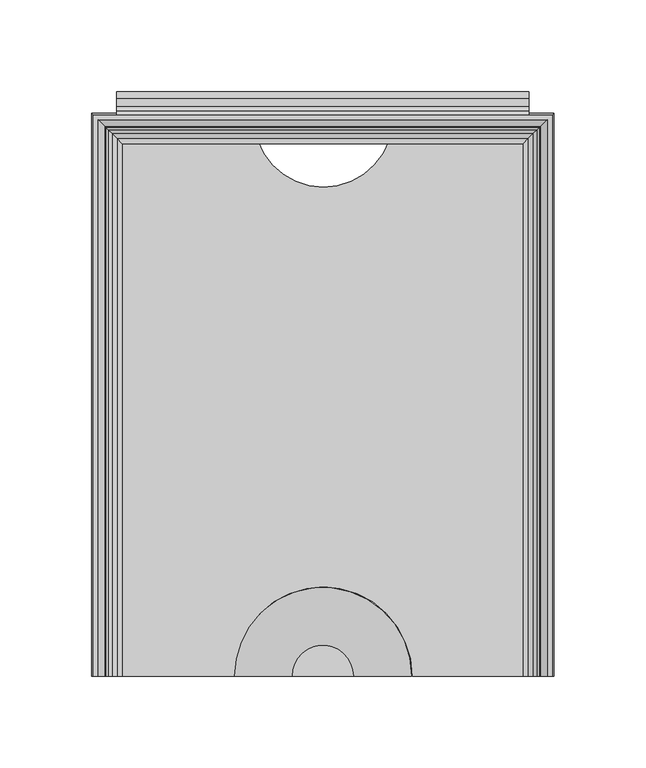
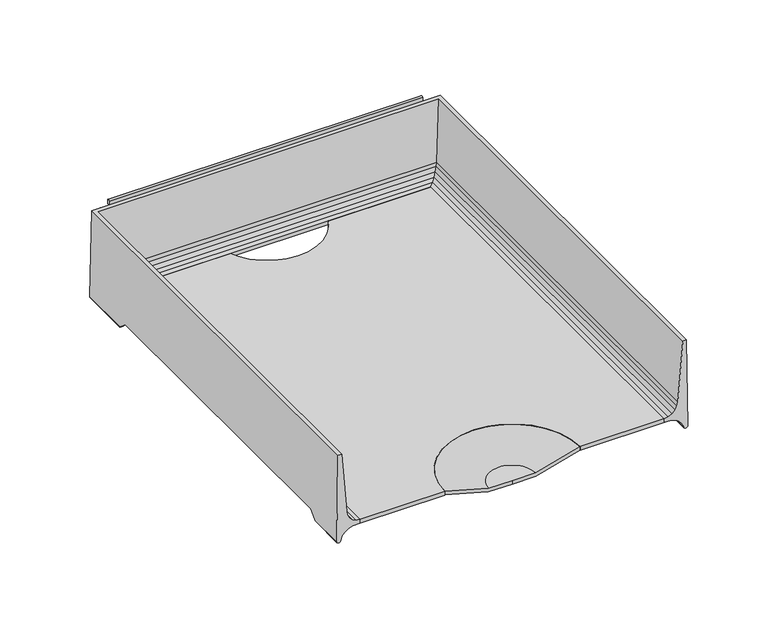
"""IFC4 building model written with IfcOpenShell, lengths in millimetres: furniture geometry."""

from ifc_helpers import new_model, si_unit, point, frame, frame_2d, origin, place, context, project, spatial, polyline, circle_curve, ellipse_curve, trimmed, segment, composite_curve, outline, extrude, source, transform, mapped, element, save
from ifc_brep_helpers import plane_surface, cylinder_surface, revolved_surface, advanced_brep


def furniture_8229559b(model_context):
    return source(origin(), model_context, "Body", "SolidModel", [
        advanced_brep(
        [(126.0820502, -154.0206082, 1028.3882489), (125.1325529, -154.0206082, 1093.7876914), (122.4547921, -154.0206082, 1093.7876914), (118.8379747, -154.0206082, 1049.0006003), (118.4123648, -154.0206082, 1046.2671052), (117.0774354, -154.0206082, 1043.5660664), (114.9656457, -154.0206082, 1041.4171015), (112.28832, -154.0206082, 1040.0352261), (109.3133381, -154.0206082, 1039.5587052), (109.3133381, -154.0206082, 1036.7365971), (114.5666739, -154.0206082, 1036.5435987), (117.605351, -154.0206082, 1035.4872218), (120.2416, -154.0206082, 1033.6433822), (122.2762142, -154.0206082, 1031.1514079), (123.1625518, -154.0206082, 1028.1081655), (126.0820502, -127.6379698, 1028.3882489), (126.0026181, -121.5231874, 1033.859372), (126.0026181, 109.0611937, 1033.859372), (126.0820502, 115.1759816, 1028.3882489), (126.0820502, 153.036442, 1028.3882489), (125.1325529, 152.0869447, 1093.7876914), (-125.1325529, 152.0869447, 1093.7876914), (-125.1325529, -154.0206082, 1093.7876914), (-122.4547921, -154.0206082, 1093.7876914), (-122.4547921, 149.4091839, 1093.7876914), (122.4547921, 149.4091839, 1093.7876914), (118.8379747, 145.7923665, 1049.0006003), (118.4123648, 145.3667566, 1046.2671052), (117.0774354, 144.0318272, 1043.5660664), (114.9656457, 141.9200375, 1041.4171015), (112.28832, 139.2427118, 1040.0352261), (109.3133381, 136.2677299, 1039.5587052), (109.3133381, 136.2677299, 1036.7365971), (114.5666739, 141.5210656, 1036.5435987), (117.605351, 144.5597428, 1035.4872218), (120.2416, 147.1959918, 1033.6433822), (120.2416, 109.3025941, 1033.6433822), (119.9327864, 109.0611937, 1033.859372), (119.9327864, -121.5231874, 1033.859372), (120.2416, -121.7645876, 1033.6433822), (122.2762142, -124.5497344, 1031.1514079), (122.2762142, 149.230606, 1031.1514079), (122.2762142, 112.0877435, 1031.1514079), (123.1625518, -127.9510041, 1028.1081655), (123.1625518, 150.1169436, 1028.1081655), (123.1625518, 115.4890162, 1028.1081655), (-126.0820502, 153.036442, 1028.3882489), (-118.8379747, 145.7923665, 1049.0006003), (-118.4123648, 145.3667566, 1046.2671052), (-117.0774354, 144.0318272, 1043.5660664), (-114.9656457, 141.9200375, 1041.4171015), (-112.28832, 139.2427118, 1040.0352261), (-109.3133381, 136.2677299, 1039.5587052), (-109.3133381, 136.2677299, 1036.7365971), (-114.5666739, 141.5210656, 1036.5435987), (-117.605351, 144.5597428, 1035.4872218), (-120.2416, 147.1959918, 1033.6433822), (-122.2762142, 149.230606, 1031.1514079), (-123.1625518, 150.1169436, 1028.1081655), (-126.0820502, -154.0206082, 1028.3882489), (-123.1625518, -154.0206082, 1028.1081655), (-122.2762142, -154.0206082, 1031.1514079), (-120.2416, -154.0206082, 1033.6433822), (-117.605351, -154.0206082, 1035.4872218), (-114.5666739, -154.0206082, 1036.5435987), (-109.3133381, -154.0206082, 1036.7365971), (-109.3133381, -154.0206082, 1039.5587052), (-112.28832, -154.0206082, 1040.0352261), (-114.9656457, -154.0206082, 1041.4171015), (-117.0774354, -154.0206082, 1043.5660664), (-118.4123648, -154.0206082, 1046.2671052), (-118.8379747, -154.0206082, 1049.0006003), (-126.0820502, 115.1759816, 1028.3882489), (-126.0026181, 109.0611937, 1033.859372), (-126.0026181, -121.5231874, 1033.859372), (-126.0820502, -127.6379698, 1028.3882489), (-120.2416, -121.7645876, 1033.6433822), (-119.9327864, -121.5231874, 1033.859372), (-119.9327864, 109.0611937, 1033.859372), (-120.2416, 109.3025941, 1033.6433822), (-122.2762142, 112.0877435, 1031.1514079), (-122.2762142, -124.5497344, 1031.1514079), (-123.1625518, 115.4890162, 1028.1081655), (-123.1625518, -127.9510041, 1028.1081655)],
        [
            (0, 1),
            (1, 2),
            (2, 3),
            (3, 4),
            (4, 5),
            (5, 6),
            (6, 7),
            (7, 8),
            (8, 9),
            (9, 10),
            (10, 11),
            (11, 12),
            (12, 13),
            (13, 14),
            (14, 0, circle_curve(frame((124.5859452, -154.0206082, 1028.6271685), z_axis=(0.0, -1.0, 0.0), x_axis=(-1.0, 0.0, 0.0)), 1.515062)),
            (0, 15),
            (15, 16),
            (16, 17),
            (17, 18),
            (18, 19),
            (19, 20),
            (20, 1),
            (20, 21),
            (21, 22),
            (22, 23),
            (23, 24),
            (24, 25),
            (25, 2),
            (25, 26),
            (26, 3),
            (26, 27),
            (27, 4),
            (27, 28),
            (28, 5),
            (28, 29),
            (29, 6),
            (29, 30),
            (30, 7),
            (30, 31),
            (31, 8),
            (31, 32),
            (32, 9),
            (32, 33),
            (33, 10),
            (33, 34),
            (34, 11),
            (34, 35),
            (35, 36),
            (36, 37),
            (37, 38),
            (38, 39),
            (39, 12),
            (39, 40),
            (40, 13),
            (35, 41),
            (41, 42),
            (42, 36),
            (40, 43),
            (43, 14),
            (41, 44),
            (44, 45),
            (45, 42),
            (43, 15, ellipse_curve(frame((124.5859452, -127.3709422, 1028.6271685), z_axis=(0.0, -0.6667949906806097, 0.7452411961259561), x_axis=(0.0, -0.7452411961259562, -0.6667949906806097)), 2.2721556, 1.515062)),
            (44, 19, ellipse_curve(frame((124.5859452, 151.540337, 1028.6271685), z_axis=(0.7071067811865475, -0.7071067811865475, 0.0), x_axis=(-0.7071067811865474, -0.7071067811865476, 0.0)), 2.1426212, 1.515062)),
            (18, 45, ellipse_curve(frame((124.5859452, 114.9089538, 1028.6271685), z_axis=(0.0, 0.6667946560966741, 0.7452414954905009), x_axis=(0.0, -0.7452414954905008, 0.6667946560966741)), 2.2721567, 1.515062)),
            (19, 46),
            (46, 21),
            (24, 47),
            (47, 26),
            (47, 48),
            (48, 27),
            (48, 49),
            (49, 28),
            (49, 50),
            (50, 29),
            (50, 51),
            (51, 30),
            (51, 52),
            (52, 31),
            (52, 53),
            (53, 32),
            (53, 54),
            (54, 33),
            (54, 55),
            (55, 34),
            (55, 56),
            (56, 35),
            (56, 57),
            (57, 41),
            (57, 58),
            (58, 44),
            (58, 46, ellipse_curve(frame((-124.5859452, 151.540337, 1028.6271685), z_axis=(0.7071067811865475, 0.7071067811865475, 0.0), x_axis=(0.7071067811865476, -0.7071067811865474, 0.0)), 2.1426212, 1.515062)),
            (22, 59),
            (59, 60, circle_curve(frame((-124.5859452, -154.0206082, 1028.6271685), z_axis=(0.0, -1.0, 0.0), x_axis=(1.0, 0.0, 0.0)), 1.515062)),
            (60, 61),
            (61, 62),
            (62, 63),
            (63, 64),
            (64, 65),
            (65, 66),
            (66, 67),
            (67, 68),
            (68, 69),
            (69, 70),
            (70, 71),
            (71, 23),
            (46, 72),
            (72, 73),
            (73, 74),
            (74, 75),
            (75, 59),
            (71, 47),
            (70, 48),
            (69, 49),
            (68, 50),
            (67, 51),
            (66, 52),
            (65, 53),
            (64, 54),
            (63, 55),
            (62, 76),
            (76, 77),
            (77, 78),
            (78, 79),
            (79, 56),
            (79, 80),
            (80, 57),
            (61, 81),
            (81, 76),
            (80, 82),
            (82, 58),
            (60, 83),
            (83, 81),
            (82, 72, ellipse_curve(frame((-124.5859452, 114.9089538, 1028.6271685), z_axis=(0.0, 0.6667946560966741, 0.7452414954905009), x_axis=(0.0, 0.7452414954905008, -0.6667946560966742)), 2.2721567, 1.515062)),
            (75, 83, ellipse_curve(frame((-124.5859452, -127.3709422, 1028.6271685), z_axis=(0.0, -0.6667949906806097, 0.7452411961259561), x_axis=(0.0, 0.745241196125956, 0.6667949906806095)), 2.2721556, 1.515062)),
            (38, 16),
            (74, 77),
            (37, 17),
            (73, 78),
        ],
        [
            plane_surface(frame((127.0, -154.0206082, 1027.1125), z_axis=(0.0, -1.0, 0.0), x_axis=(0.0, 0.0, 1.0))),
            plane_surface(frame((126.0820502, -154.0206082, 1028.3882489), z_axis=(0.9998946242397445, 0.0, 0.014516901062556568), x_axis=(0.0, 1.0, 0.0))),
            plane_surface(frame((125.1325529, -154.0206082, 1093.7876914), z_axis=(0.0, 0.0, 1.0), x_axis=(0.0, 1.0, 0.0))),
            plane_surface(frame((122.4547921, -154.0206082, 1093.7876914), z_axis=(-0.9967551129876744, 0.0, 0.08049375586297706), x_axis=(0.0, 1.0, 0.0))),
            plane_surface(frame((118.8379747, -154.0206082, 1049.0006003), z_axis=(-0.9880945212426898, 0.0, 0.15384803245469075), x_axis=(0.0, 1.0, 0.0))),
            plane_surface(frame((118.4123648, -154.0206082, 1046.2671052), z_axis=(-0.8964873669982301, 0.0, 0.44306929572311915), x_axis=(0.0, 1.0, 0.0))),
            plane_surface(frame((117.0774354, -154.0206082, 1043.5660664), z_axis=(-0.7132491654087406, 0.0, 0.7009105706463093), x_axis=(0.0, 1.0, 0.0))),
            plane_surface(frame((114.9656457, -154.0206082, 1041.4171015), z_axis=(-0.45865074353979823, 0.0, 0.8886166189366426), x_axis=(0.0, 1.0, 0.0))),
            plane_surface(frame((112.28832, -154.0206082, 1040.0352261), z_axis=(-0.15816001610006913, 0.0, 0.987413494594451), x_axis=(0.0, 1.0, 0.0))),
            plane_surface(frame((109.3133381, -154.0206082, 1039.5587052), z_axis=(-1.0, 0.0, 0.0), x_axis=(0.0, 1.0, 0.0))),
            plane_surface(frame((109.3133381, -154.0206082, 1036.7365971), z_axis=(-0.036713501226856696, 0.0, -0.9993258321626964), x_axis=(0.0, 1.0, 0.0))),
            plane_surface(frame((114.5666739, -154.0206082, 1036.5435987), z_axis=(-0.3283669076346, 0.0, -0.9445502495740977), x_axis=(0.0, 1.0, 0.0))),
            plane_surface(frame((117.605351, -154.0206082, 1035.4872218), z_axis=(-0.5731421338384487, 0.0, -0.819455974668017), x_axis=(0.0, 1.0, 0.0))),
            plane_surface(frame((120.2416, -154.0206082, 1033.6433822), z_axis=(-0.77460799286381, 0.0, -0.6324416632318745), x_axis=(0.0, 1.0, 0.0))),
            plane_surface(frame((122.2762142, -154.0206082, 1031.1514079), z_axis=(-0.9601080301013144, 0.0, -0.2796293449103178), x_axis=(0.0, 1.0, 0.0))),
            cylinder_surface(frame((124.5859452, -154.0206082, 1028.6271685), z_axis=(0.0, -1.0, 0.0), x_axis=(-1.0, 0.0, 0.0)), 1.515062),
            plane_surface(frame((126.0820502, 153.036442, 1028.3882489), z_axis=(0.0, 0.9998946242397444, 0.014516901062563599), x_axis=(-1.0, 0.0, 0.0))),
            plane_surface(frame((122.4547921, 149.4091839, 1093.7876914), z_axis=(0.0, -0.9967551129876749, 0.08049375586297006), x_axis=(-1.0, 0.0, 0.0))),
            plane_surface(frame((118.8379747, 145.7923665, 1049.0006003), z_axis=(0.0, -0.9880945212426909, 0.15384803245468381), x_axis=(-1.0, 0.0, 0.0))),
            plane_surface(frame((118.4123648, 145.3667566, 1046.2671052), z_axis=(0.0, -0.8964873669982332, 0.4430692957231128), x_axis=(-1.0, 0.0, 0.0))),
            plane_surface(frame((117.0774354, 144.0318272, 1043.5660664), z_axis=(0.0, -0.7132491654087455, 0.7009105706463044), x_axis=(-1.0, 0.0, 0.0))),
            plane_surface(frame((114.9656457, 141.9200375, 1041.4171015), z_axis=(0.0, -0.4586507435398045, 0.8886166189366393), x_axis=(-1.0, 0.0, 0.0))),
            plane_surface(frame((112.28832, 139.2427118, 1040.0352261), z_axis=(0.0, -0.15816001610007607, 0.9874134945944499), x_axis=(-1.0, 0.0, 0.0))),
            plane_surface(frame((109.3133381, 136.2677299, 1039.5587052), z_axis=(0.0, -1.0, 0.0), x_axis=(-1.0, 0.0, 0.0))),
            plane_surface(frame((109.3133381, 136.2677299, 1036.7365971), z_axis=(0.0, -0.03671350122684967, -0.9993258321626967), x_axis=(-1.0, 0.0, 0.0))),
            plane_surface(frame((114.5666739, 141.5210656, 1036.5435987), z_axis=(0.0, -0.32836690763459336, -0.9445502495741), x_axis=(-1.0, 0.0, 0.0))),
            plane_surface(frame((117.605351, 144.5597428, 1035.4872218), z_axis=(0.0, -0.5731421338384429, -0.819455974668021), x_axis=(-1.0, 0.0, 0.0))),
            plane_surface(frame((120.2416, 147.1959918, 1033.6433822), z_axis=(0.0, -0.7746079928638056, -0.6324416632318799), x_axis=(-1.0, 0.0, 0.0))),
            plane_surface(frame((122.2762142, 149.230606, 1031.1514079), z_axis=(0.0, -0.9601080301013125, -0.27962934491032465), x_axis=(-1.0, 0.0, 0.0))),
            cylinder_surface(frame((127.0, 151.540337, 1028.6271685), z_axis=(1.0, 0.0, 0.0), x_axis=(0.0, -1.0, 0.0)), 1.515062),
            plane_surface(frame((-127.0, -154.0206082, 1027.1125), z_axis=(0.0, -1.0, 0.0), x_axis=(0.0, 0.0, 1.0))),
            plane_surface(frame((-126.0820502, 153.036442, 1028.3882489), z_axis=(-0.9998946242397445, 0.0, 0.014516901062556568), x_axis=(0.0, -1.0, 0.0))),
            plane_surface(frame((-122.4547921, 149.4091839, 1093.7876914), z_axis=(0.9967551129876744, 0.0, 0.08049375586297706), x_axis=(0.0, -1.0, 0.0))),
            plane_surface(frame((-118.8379747, 145.7923665, 1049.0006003), z_axis=(0.9880945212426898, 0.0, 0.15384803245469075), x_axis=(0.0, -1.0, 0.0))),
            plane_surface(frame((-118.4123648, 145.3667566, 1046.2671052), z_axis=(0.8964873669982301, 0.0, 0.44306929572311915), x_axis=(0.0, -1.0, 0.0))),
            plane_surface(frame((-117.0774354, 144.0318272, 1043.5660664), z_axis=(0.7132491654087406, 0.0, 0.7009105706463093), x_axis=(0.0, -1.0, 0.0))),
            plane_surface(frame((-114.9656457, 141.9200375, 1041.4171015), z_axis=(0.45865074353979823, 0.0, 0.8886166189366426), x_axis=(0.0, -1.0, 0.0))),
            plane_surface(frame((-112.28832, 139.2427118, 1040.0352261), z_axis=(0.15816001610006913, 0.0, 0.987413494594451), x_axis=(0.0, -1.0, 0.0))),
            plane_surface(frame((-109.3133381, 136.2677299, 1039.5587052), z_axis=(1.0, 0.0, 0.0), x_axis=(0.0, -1.0, 0.0))),
            plane_surface(frame((-109.3133381, 136.2677299, 1036.7365971), z_axis=(0.036713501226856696, 0.0, -0.9993258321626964), x_axis=(0.0, -1.0, 0.0))),
            plane_surface(frame((-114.5666739, 141.5210656, 1036.5435987), z_axis=(0.3283669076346, 0.0, -0.9445502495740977), x_axis=(0.0, -1.0, 0.0))),
            plane_surface(frame((-117.605351, 144.5597428, 1035.4872218), z_axis=(0.5731421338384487, 0.0, -0.819455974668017), x_axis=(0.0, -1.0, 0.0))),
            plane_surface(frame((-120.2416, 147.1959918, 1033.6433822), z_axis=(0.77460799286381, 0.0, -0.6324416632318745), x_axis=(0.0, -1.0, 0.0))),
            plane_surface(frame((-122.2762142, 149.230606, 1031.1514079), z_axis=(0.9601080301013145, 0.0, -0.2796293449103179), x_axis=(0.0, -1.0, 0.0))),
            cylinder_surface(frame((-124.5859452, 153.9543918, 1028.6271685), z_axis=(0.0, 1.0, 0.0), x_axis=(1.0, 0.0, 0.0)), 1.515062),
            plane_surface(frame((-127.0, -130.1695728, 1026.1231296), z_axis=(0.0, 0.6667949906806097, -0.7452411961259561), x_axis=(1.0, 0.0, 0.0))),
            plane_surface(frame((-127.0, -121.5231874, 1033.859372), z_axis=(0.0, 0.0, -1.0), x_axis=(1.0, 0.0, 0.0))),
            plane_surface(frame((-127.0, 109.0611937, 1033.859372), z_axis=(0.0, -0.6667946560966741, -0.7452414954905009), x_axis=(1.0, 0.0, 0.0))),
        ],
        [
            (0, [[1, 2, 3, 4, 5, 6, 7, 8, 9, 10, 11, 12, 13, 14, 15]]),
            (1, [[-1, 16, 17, 18, 19, 20, 21, 22]]),
            (2, [[-2, -22, 23, 24, 25, 26, 27, 28]]),
            (3, [[-3, -28, 29, 30]]),
            (4, [[-4, -30, 31, 32]]),
            (5, [[-5, -32, 33, 34]]),
            (6, [[-6, -34, 35, 36]]),
            (7, [[-7, -36, 37, 38]]),
            (8, [[-8, -38, 39, 40]]),
            (9, [[-9, -40, 41, 42]]),
            (10, [[-10, -42, 43, 44]]),
            (11, [[-11, -44, 45, 46]]),
            (12, [[-12, -46, 47, 48, 49, 50, 51, 52]]),
            (13, [[-13, -52, 53, 54]]),
            (13, [[55, 56, 57, -48]]),
            (14, [[-14, -54, 58, 59]]),
            (14, [[60, 61, 62, -56]]),
            (15, [[-15, -59, 63, -16]]),
            (15, [[64, -20, 65, -61]]),
            (16, [[-21, 66, 67, -23]]),
            (17, [[-27, 68, 69, -29]]),
            (18, [[-31, -69, 70, 71]]),
            (19, [[-33, -71, 72, 73]]),
            (20, [[-35, -73, 74, 75]]),
            (21, [[-37, -75, 76, 77]]),
            (22, [[-39, -77, 78, 79]]),
            (23, [[-41, -79, 80, 81]]),
            (24, [[-43, -81, 82, 83]]),
            (25, [[-45, -83, 84, 85]]),
            (26, [[-47, -85, 86, 87]]),
            (27, [[-55, -87, 88, 89]]),
            (28, [[-60, -89, 90, 91]]),
            (29, [[-64, -91, 92, -66]]),
            (30, [[-25, 93, 94, 95, 96, 97, 98, 99, 100, 101, 102, 103, 104, 105, 106]]),
            (31, [[-24, -67, 107, 108, 109, 110, 111, -93]]),
            (32, [[-26, -106, 112, -68]]),
            (33, [[-70, -112, -105, 113]]),
            (34, [[-72, -113, -104, 114]]),
            (35, [[-74, -114, -103, 115]]),
            (36, [[-76, -115, -102, 116]]),
            (37, [[-78, -116, -101, 117]]),
            (38, [[-80, -117, -100, 118]]),
            (39, [[-82, -118, -99, 119]]),
            (40, [[-84, -119, -98, 120]]),
            (41, [[-86, -120, -97, 121, 122, 123, 124, 125]]),
            (42, [[-88, -125, 126, 127]]),
            (42, [[-96, 128, 129, -121]]),
            (43, [[-90, -127, 130, 131]]),
            (43, [[-95, 132, 133, -128]]),
            (44, [[-92, -131, 134, -107]]),
            (44, [[-94, -111, 135, -132]]),
            (45, [[136, -17, -63, -58, -53, -51]]),
            (45, [[137, -122, -129, -133, -135, -110]]),
            (46, [[-136, -50, 138, -18]]),
            (46, [[-137, -109, 139, -123]]),
            (47, [[-138, -49, -57, -62, -65, -19]]),
            (47, [[-139, -108, -134, -130, -126, -124]]),
        ],
    ),
        extrude(outline(composite_curve([segment(polyline([(-109.3647805, 138.2769393), (-35.6610422, 138.2769393)]), True, "CONTINUOUS"), segment(trimmed(circle_curve(frame_2d((0.3369133, 150.6584166)), 38.0677525), [point((-35.6610422, 138.2769393))], [point((36.3348688, 138.2769393))], True, "CARTESIAN"), True, "CONTINUOUS"), segment(polyline([(36.3348688, 138.2769393), (109.6504969, 138.2769393), (109.6504969, -153.9875), (48.9112184, -153.9875)]), True, "CONTINUOUS"), segment(trimmed(circle_curve(frame_2d((0.2842795, -153.9323196)), 48.6269702), [point((48.9112184, -153.9875))], [point((-48.3426595, -153.9875))], True, "CARTESIAN"), True, "CONTINUOUS"), segment(polyline([(-48.3426595, -153.9875), (-109.3647805, -153.9875), (-109.3647805, 138.2769393)]), True, "CONTINUOUS")], self_intersect=False)), frame((0.0, 0.0, 1036.7189677), z_axis=(0.0, 0.0, 1.0), x_axis=(1.0, 0.0, 0.0)), (0.0, 0.0, 1.0), 2.8395461),
        extrude(outline(composite_curve([segment(trimmed(circle_curve(frame_2d((162.7186949, 1077.9582343)), 1.9049988), [point((164.6236937, 1077.9582343))], [point((160.8136962, 1077.9582343))], False, "CARTESIAN"), True, "CONTINUOUS"), segment(polyline([(160.8136962, 1077.9582343), (160.8136962, 1081.3872311), (160.0516969, 1082.1492303), (156.4380325, 1082.1492303), (152.1427596, 1079.8018331), (152.1427596, 1088.3066285), (156.4380325, 1085.9592312), (160.8136928, 1085.9592312)]), True, "CONTINUOUS"), segment(trimmed(circle_curve(frame_2d((160.8136928, 1082.1492303)), 3.8100009), [point((160.8136928, 1085.9592312))], [point((164.6236937, 1082.1492303))], False, "CARTESIAN"), True, "CONTINUOUS"), segment(polyline([(164.6236937, 1082.1492303), (164.6236937, 1077.9582343)]), True, "CONTINUOUS")], self_intersect=False)), frame((-112.5397809, 0.0, 0.0), z_axis=(1.0, 0.0, 0.0), x_axis=(0.0, 1.0, 0.0)), (0.0, 0.0, 1.0), 225.0795617),
        advanced_brep(
        [(-16.8929028, -153.9875, 1030.684375), (-48.4614622, -153.9875, 1039.5920432), (-48.4614622, -153.9875, 1037.0005018), (-16.9249292, -153.9875, 1028.1018704), (0.0, -153.9875, 1028.1018704), (0.0, -153.9875, 1030.684375), (16.8929028, -153.9875, 1030.684375), (16.9249292, -153.9875, 1028.1018704), (48.4614622, -153.9875, 1037.0005018), (48.4614622, -153.9875, 1039.5920432)],
        [
            (0, 1),
            (1, 2),
            (2, 3),
            (3, 4),
            (4, 5),
            (5, 0),
            (6, 5),
            (4, 7),
            (7, 8),
            (8, 9),
            (9, 6),
            (9, 1, circle_curve(frame((0.0, -153.9875, 1039.5920432), z_axis=(0.0, 0.0, 1.0), x_axis=(-1.0, 0.0, 0.0)), 48.4614622)),
            (0, 6, circle_curve(frame((0.0, -153.9875, 1030.684375), z_axis=(0.0, 0.0, -1.0), x_axis=(-1.0, 0.0, 0.0)), 16.8929028)),
            (8, 2, circle_curve(frame((0.0, -153.9875, 1037.0005018), z_axis=(0.0, 0.0, 1.0), x_axis=(-1.0, 0.0, 0.0)), 48.4614622)),
            (7, 3, circle_curve(frame((0.0, -153.9875, 1028.1018704), z_axis=(0.0, 0.0, 1.0), x_axis=(-1.0, 0.0, 0.0)), 16.9249292)),
        ],
        [
            plane_surface(frame((0.0, -153.9875, 1027.1125), z_axis=(0.0, -1.0, 0.0), x_axis=(-1.0, 0.0, 0.0))),
            plane_surface(frame((0.0, -153.9875, 1027.1125), z_axis=(0.0, -1.0, 0.0), x_axis=(1.0, 0.0, 0.0))),
            revolved_surface(polyline([(-48.4614622, -153.9875, 1039.5920432), (-16.8929028, -153.9875, 1030.684375)]), (0.0, -153.9875, 1027.1125), (0.0, 0.0, 1.0)),
            cylinder_surface(frame((0.0, -153.9875, 1027.1125), z_axis=(0.0, 0.0, 1.0), x_axis=(-1.0, 0.0, 0.0)), 48.4614622),
            revolved_surface(polyline([(-16.9249292, -153.9875, 1028.1018704), (-48.4614622, -153.9875, 1037.0005018)]), (0.0, -153.9875, 1027.1125), (0.0, 0.0, 1.0)),
            plane_surface(frame((0.0, -153.9875, 1028.1018704), z_axis=(0.0, 0.0, -1.0), x_axis=(-1.0, 0.0, 0.0))),
            plane_surface(frame((0.0, -153.9875, 1030.684375), z_axis=(0.0, 0.0, 1.0), x_axis=(-1.0, 0.0, 0.0))),
        ],
        [
            (0, [[1, 2, 3, 4, 5, 6]]),
            (1, [[7, -5, 8, 9, 10, 11]]),
            (2, [[12, -1, 13, -11]]),
            (3, [[14, -2, -12, -10]]),
            (4, [[15, -3, -14, -9]]),
            (5, [[-4, -15, -8]]),
            (6, [[-13, -6, -7]]),
        ],
    ),
        extrude(outline(composite_curve([segment(polyline([(153.9875, 1093.7875), (152.1427596, 1093.7875), (152.1427596, 1096.6190333)]), True, "CONTINUOUS"), segment(trimmed(circle_curve(frame_2d((153.0651298, 1096.3137665)), 0.9715733), [point((152.1427596, 1096.6190333))], [point((153.9875, 1096.6190333))], False, "CARTESIAN"), True, "CONTINUOUS"), segment(polyline([(153.9875, 1096.6190333), (153.9875, 1093.7875)]), True, "CONTINUOUS")], self_intersect=False)), frame((-112.5397809, 0.0, 0.0), z_axis=(1.0, 0.0, 0.0), x_axis=(0.0, 1.0, 0.0)), (0.0, 0.0, 1.0), 225.0795617),
    ])


if __name__ == "__main__":
    model = new_model("IFC4")
    model_context = context("Model", 3, world=origin())
    ifc_project = project(units=[si_unit("LENGTHUNIT", "METRE", prefix="MILLI")], contexts=[model_context])
    site = spatial("IfcSite", under=ifc_project)
    building = spatial("IfcBuilding", under=site)
    placement = place(None, origin())
    furniture_shape = furniture_8229559b(model_context)
    element("IfcFurniture", 1, ObjectType="HermanMiller_ThrivePortfolio_Y7216_PaperTray : 3\"H x 12\"D x 10\"W", at=placement, inside=building, context=model_context, shape_type="MappedRepresentation", body=[
        mapped(furniture_shape, transform((0.0, 0.0, 0.0), x_axis=(1.0, 0.0, 0.0), y_axis=(0.0, 1.0, 0.0), z_axis=(0.0, 0.0, 1.0))),
    ])
    save(model, "model.ifc")
